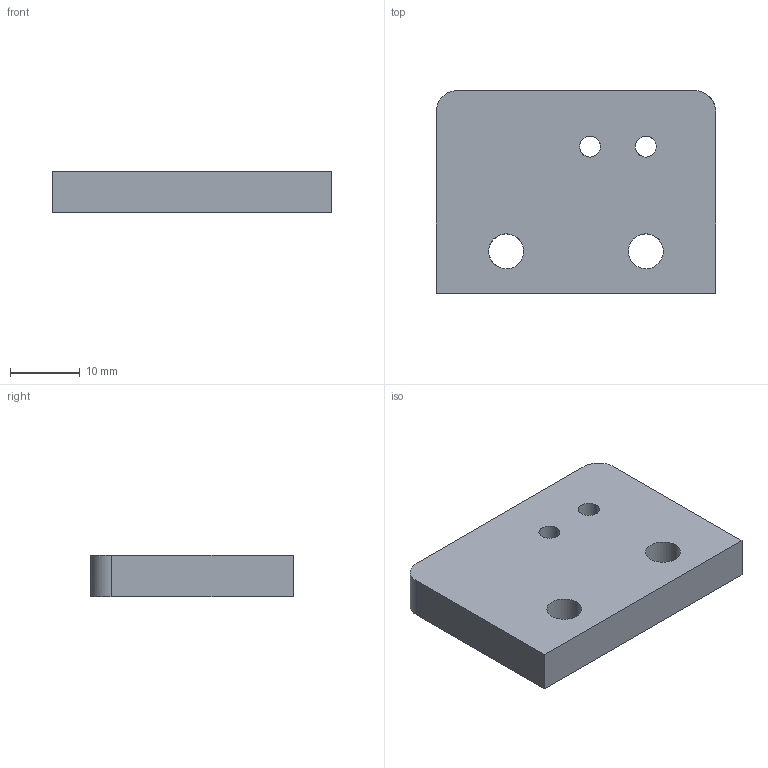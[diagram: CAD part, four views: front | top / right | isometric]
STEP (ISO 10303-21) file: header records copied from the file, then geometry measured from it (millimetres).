
FILE_DESCRIPTION(/* description */ (''),/* implementation_level */ '2;1');
FILE_NAME(/* name */ '7.x-cart#7.7#la-mpk-10',/* time_stamp */ '2014-12-01T20:17:45+01:00',/* author */ (''),/* organization */ (''),/* preprocessor_version */ 'ST-DEVELOPER v14',/* originating_system */ '',/* authorisation */ '');
FILE_SCHEMA (('AUTOMOTIVE_DESIGN'));
Length unit declared in the file: millimetre
Products named in the file (1): Document
Bounding box: 40 x 29 x 6 mm (x, y, z)
Volume: 6615.7 mm3; surface area: 3319.7 mm2
Topology: 1 solids, 1 shells, 16 faces, 42 edges, 28 vertices
Faces by surface type: bspline 14, plane 2
Entity records: 1108 total; most frequent: CARTESIAN_POINT 584, ORIENTED_EDGE 84, PCURVE 84, DEFINITIONAL_REPRESENTATION 84, B_SPLINE_CURVE_WITH_KNOTS 56, SURFACE_CURVE 42, EDGE_CURVE 42, VERTEX_POINT 28
